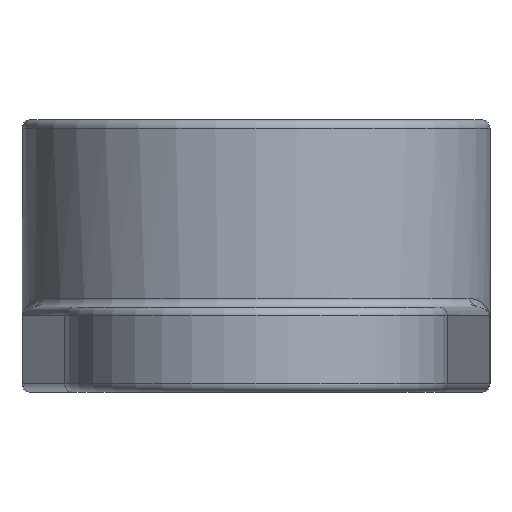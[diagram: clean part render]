
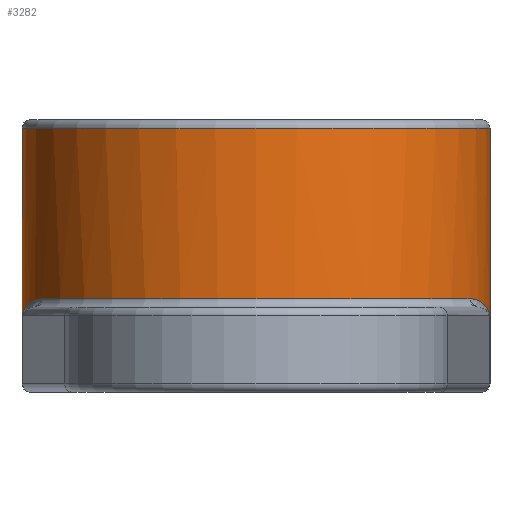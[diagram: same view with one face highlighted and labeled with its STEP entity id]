
A CAD part, front view. The second image highlights one B-rep face of the part: STEP entity #3282.
In plain terms, the highlighted cylindrical face has radius 2.75 mm (diameter 5.5 mm), a partial arc.
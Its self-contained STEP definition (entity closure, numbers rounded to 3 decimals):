
#13 = CARTESIAN_POINT ( 'NONE',  ( 2.742, -0.215, 0.915 ) ) ;
#48 = CARTESIAN_POINT ( 'NONE',  ( 2.743, -0.202, 0.9 ) ) ;
#68 = VERTEX_POINT ( 'NONE', #3168 ) ;
#128 = CARTESIAN_POINT ( 'NONE',  ( 0., 0., 0.1 ) ) ;
#181 = CARTESIAN_POINT ( 'NONE',  ( 2.75, 0., 0.1 ) ) ;
#304 = CIRCLE ( 'NONE', #5687, 2.75 ) ;
#318 = ORIENTED_EDGE ( 'NONE', *, *, #1437, .T. ) ;
#327 = DIRECTION ( 'NONE',  ( 0., 0., -1. ) ) ;
#332 = VERTEX_POINT ( 'NONE', #2397 ) ;
#348 = CIRCLE ( 'NONE', #1606, 2.75 ) ;
#393 = DIRECTION ( 'NONE',  ( 0., 0., -1. ) ) ;
#439 = LINE ( 'NONE', #3542, #5287 ) ;
#450 = ORIENTED_EDGE ( 'NONE', *, *, #2939, .F. ) ;
#495 = AXIS2_PLACEMENT_3D ( 'NONE', #3364, #2037, #4718 ) ;
#541 = AXIS2_PLACEMENT_3D ( 'NONE', #3060, #393, #2169 ) ;
#651 = CARTESIAN_POINT ( 'NONE',  ( 2.743, -0.202, 0.9 ) ) ;
#687 = CARTESIAN_POINT ( 'NONE',  ( -2.743, -0.202, 0.905 ) ) ;
#765 = EDGE_CURVE ( 'NONE', #4543, #68, #304, .T. ) ;
#771 = CARTESIAN_POINT ( 'NONE',  ( -2.742, -0.207, 0.909 ) ) ;
#934 = CARTESIAN_POINT ( 'NONE',  ( 2.741, -0.22, 0.917 ) ) ;
#970 = ORIENTED_EDGE ( 'NONE', *, *, #765, .T. ) ;
#1001 = DIRECTION ( 'NONE',  ( 1., 0., 0. ) ) ;
#1068 = DIRECTION ( 'NONE',  ( 0., 0., -1. ) ) ;
#1156 = CARTESIAN_POINT ( 'NONE',  ( -2.728, -0.349, 0.962 ) ) ;
#1308 = CARTESIAN_POINT ( 'NONE',  ( 2.633, -0.81, 1.074 ) ) ;
#1317 = VERTEX_POINT ( 'NONE', #181 ) ;
#1327 = ORIENTED_EDGE ( 'NONE', *, *, #2248, .T. ) ;
#1366 = CARTESIAN_POINT ( 'NONE',  ( 2.739, -0.243, 0.927 ) ) ;
#1391 = CYLINDRICAL_SURFACE ( 'NONE', #541, 2.75 ) ;
#1437 = EDGE_CURVE ( 'NONE', #4823, #5584, #5625, .T. ) ;
#1606 = AXIS2_PLACEMENT_3D ( 'NONE', #128, #3210, #1001 ) ;
#1610 = CARTESIAN_POINT ( 'NONE',  ( -2.633, -0.809, 1.074 ) ) ;
#1629 = CARTESIAN_POINT ( 'NONE',  ( -2.581, -0.962, 1.1 ) ) ;
#1757 = CARTESIAN_POINT ( 'NONE',  ( 2.735, -0.291, 0.944 ) ) ;
#1795 = DIRECTION ( 'NONE',  ( 0., 0., 1. ) ) ;
#1808 = EDGE_CURVE ( 'NONE', #5565, #2633, #3608, .T. ) ;
#2019 = VECTOR ( 'NONE', #2807, 1000. ) ;
#2037 = DIRECTION ( 'NONE',  ( 0., 0., 1. ) ) ;
#2052 = CARTESIAN_POINT ( 'NONE',  ( -2.705, -0.503, 1.004 ) ) ;
#2169 = DIRECTION ( 'NONE',  ( -1., 0., 0. ) ) ;
#2200 = CARTESIAN_POINT ( 'NONE',  ( 2.742, -0.207, 0.909 ) ) ;
#2221 = CARTESIAN_POINT ( 'NONE',  ( 2.723, -0.387, 0.972 ) ) ;
#2243 = EDGE_CURVE ( 'NONE', #5189, #332, #3600, .T. ) ;
#2248 = EDGE_CURVE ( 'NONE', #4745, #5565, #2867, .T. ) ;
#2294 = LINE ( 'NONE', #4926, #5260 ) ;
#2300 = DIRECTION ( 'NONE',  ( 0., 0., -1. ) ) ;
#2376 = CARTESIAN_POINT ( 'NONE',  ( 2.743, -0.202, 1. ) ) ;
#2397 = CARTESIAN_POINT ( 'NONE',  ( -2.75, 0., 3.1 ) ) ;
#2445 = DIRECTION ( 'NONE',  ( 1., 0., 0. ) ) ;
#2467 = CARTESIAN_POINT ( 'NONE',  ( -2.689, -0.58, 1.023 ) ) ;
#2539 = ORIENTED_EDGE ( 'NONE', *, *, #5535, .T. ) ;
#2627 = FACE_OUTER_BOUND ( 'NONE', #2984, .T. ) ;
#2633 = VERTEX_POINT ( 'NONE', #4820 ) ;
#2638 = CARTESIAN_POINT ( 'NONE',  ( 2.728, -0.348, 0.962 ) ) ;
#2788 = CARTESIAN_POINT ( 'NONE',  ( -2.75, 0., 1. ) ) ;
#2807 = DIRECTION ( 'NONE',  ( 0., 0., -1. ) ) ;
#2867 = B_SPLINE_CURVE_WITH_KNOTS ( 'NONE', 3,
 ( #3399, #687, #771, #5191, #3863, #3346, #4249, #2931, #2970, #1156, #4693, #2052, #2467, #1610, #1629, #4730 ),
 .UNSPECIFIED., .F., .F.,
 ( 4, 2, 2, 2, 2, 2, 2, 4 ),
 ( 0., 0., 0., 0., 0., 0., 0., 0.001 ),
 .UNSPECIFIED. ) ;
#2870 = EDGE_CURVE ( 'NONE', #332, #4543, #2976, .T. ) ;
#2931 = CARTESIAN_POINT ( 'NONE',  ( -2.737, -0.272, 0.938 ) ) ;
#2939 = EDGE_CURVE ( 'NONE', #5189, #1317, #2294, .T. ) ;
#2970 = CARTESIAN_POINT ( 'NONE',  ( -2.735, -0.291, 0.944 ) ) ;
#2976 = LINE ( 'NONE', #2788, #2019 ) ;
#2984 = EDGE_LOOP ( 'NONE', ( #450, #3031, #4127, #970, #2539, #1327, #3561, #4082, #318, #5052 ) ) ;
#3031 = ORIENTED_EDGE ( 'NONE', *, *, #2243, .T. ) ;
#3046 = B_SPLINE_CURVE_WITH_KNOTS ( 'NONE', 3,
 ( #4849, #3540, #1308, #4399, #3967, #2221, #2638, #1757, #4416, #1366, #4830, #934, #13, #2200, #5281, #48 ),
 .UNSPECIFIED., .F., .F.,
 ( 4, 2, 2, 2, 2, 2, 2, 4 ),
 ( 0., 0., 0.001, 0.001, 0.001, 0.001, 0.001, 0.001 ),
 .UNSPECIFIED. ) ;
#3060 = CARTESIAN_POINT ( 'NONE',  ( 0., 0., 1. ) ) ;
#3099 = CARTESIAN_POINT ( 'NONE',  ( -2.516, -1.111, 1.1 ) ) ;
#3168 = CARTESIAN_POINT ( 'NONE',  ( -2.743, -0.202, 0.1 ) ) ;
#3210 = DIRECTION ( 'NONE',  ( 0., 0., 1. ) ) ;
#3282 = ADVANCED_FACE ( 'NONE', ( #2627 ), #1391, .T. ) ;
#3346 = CARTESIAN_POINT ( 'NONE',  ( -2.74, -0.234, 0.924 ) ) ;
#3364 = CARTESIAN_POINT ( 'NONE',  ( 0., 0., 1.1 ) ) ;
#3399 = CARTESIAN_POINT ( 'NONE',  ( -2.743, -0.202, 0.9 ) ) ;
#3540 = CARTESIAN_POINT ( 'NONE',  ( 2.581, -0.962, 1.1 ) ) ;
#3542 = CARTESIAN_POINT ( 'NONE',  ( -2.743, -0.202, 1. ) ) ;
#3561 = ORIENTED_EDGE ( 'NONE', *, *, #1808, .T. ) ;
#3600 = CIRCLE ( 'NONE', #4255, 2.75 ) ;
#3608 = CIRCLE ( 'NONE', #495, 2.75 ) ;
#3639 = EDGE_CURVE ( 'NONE', #5584, #1317, #348, .T. ) ;
#3863 = CARTESIAN_POINT ( 'NONE',  ( -2.741, -0.22, 0.917 ) ) ;
#3967 = CARTESIAN_POINT ( 'NONE',  ( 2.705, -0.503, 1.004 ) ) ;
#4017 = EDGE_CURVE ( 'NONE', #2633, #4823, #3046, .T. ) ;
#4082 = ORIENTED_EDGE ( 'NONE', *, *, #4017, .T. ) ;
#4127 = ORIENTED_EDGE ( 'NONE', *, *, #2870, .T. ) ;
#4204 = CARTESIAN_POINT ( 'NONE',  ( 0., 0., 0.1 ) ) ;
#4249 = CARTESIAN_POINT ( 'NONE',  ( -2.739, -0.243, 0.927 ) ) ;
#4255 = AXIS2_PLACEMENT_3D ( 'NONE', #5136, #327, #4671 ) ;
#4319 = VECTOR ( 'NONE', #1068, 1000. ) ;
#4399 = CARTESIAN_POINT ( 'NONE',  ( 2.689, -0.58, 1.023 ) ) ;
#4416 = CARTESIAN_POINT ( 'NONE',  ( 2.737, -0.271, 0.938 ) ) ;
#4543 = VERTEX_POINT ( 'NONE', #5366 ) ;
#4550 = CARTESIAN_POINT ( 'NONE',  ( 2.743, -0.202, 0.1 ) ) ;
#4557 = CARTESIAN_POINT ( 'NONE',  ( 2.75, 0., 3.1 ) ) ;
#4651 = DIRECTION ( 'NONE',  ( 0., 0., 1. ) ) ;
#4671 = DIRECTION ( 'NONE',  ( 1., 0., 0. ) ) ;
#4693 = CARTESIAN_POINT ( 'NONE',  ( -2.723, -0.387, 0.973 ) ) ;
#4718 = DIRECTION ( 'NONE',  ( 1., 0., 0. ) ) ;
#4730 = CARTESIAN_POINT ( 'NONE',  ( -2.516, -1.111, 1.1 ) ) ;
#4745 = VERTEX_POINT ( 'NONE', #5527 ) ;
#4820 = CARTESIAN_POINT ( 'NONE',  ( 2.516, -1.111, 1.1 ) ) ;
#4823 = VERTEX_POINT ( 'NONE', #651 ) ;
#4830 = CARTESIAN_POINT ( 'NONE',  ( 2.74, -0.234, 0.924 ) ) ;
#4849 = CARTESIAN_POINT ( 'NONE',  ( 2.516, -1.111, 1.1 ) ) ;
#4926 = CARTESIAN_POINT ( 'NONE',  ( 2.75, 0., 1. ) ) ;
#5052 = ORIENTED_EDGE ( 'NONE', *, *, #3639, .T. ) ;
#5136 = CARTESIAN_POINT ( 'NONE',  ( 0., 0., 3.1 ) ) ;
#5189 = VERTEX_POINT ( 'NONE', #4557 ) ;
#5191 = CARTESIAN_POINT ( 'NONE',  ( -2.742, -0.216, 0.915 ) ) ;
#5260 = VECTOR ( 'NONE', #2300, 1000. ) ;
#5281 = CARTESIAN_POINT ( 'NONE',  ( 2.743, -0.202, 0.905 ) ) ;
#5287 = VECTOR ( 'NONE', #1795, 1000. ) ;
#5366 = CARTESIAN_POINT ( 'NONE',  ( -2.75, 0., 0.1 ) ) ;
#5527 = CARTESIAN_POINT ( 'NONE',  ( -2.743, -0.202, 0.9 ) ) ;
#5535 = EDGE_CURVE ( 'NONE', #68, #4745, #439, .T. ) ;
#5565 = VERTEX_POINT ( 'NONE', #3099 ) ;
#5584 = VERTEX_POINT ( 'NONE', #4550 ) ;
#5625 = LINE ( 'NONE', #2376, #4319 ) ;
#5687 = AXIS2_PLACEMENT_3D ( 'NONE', #4204, #4651, #2445 ) ;
